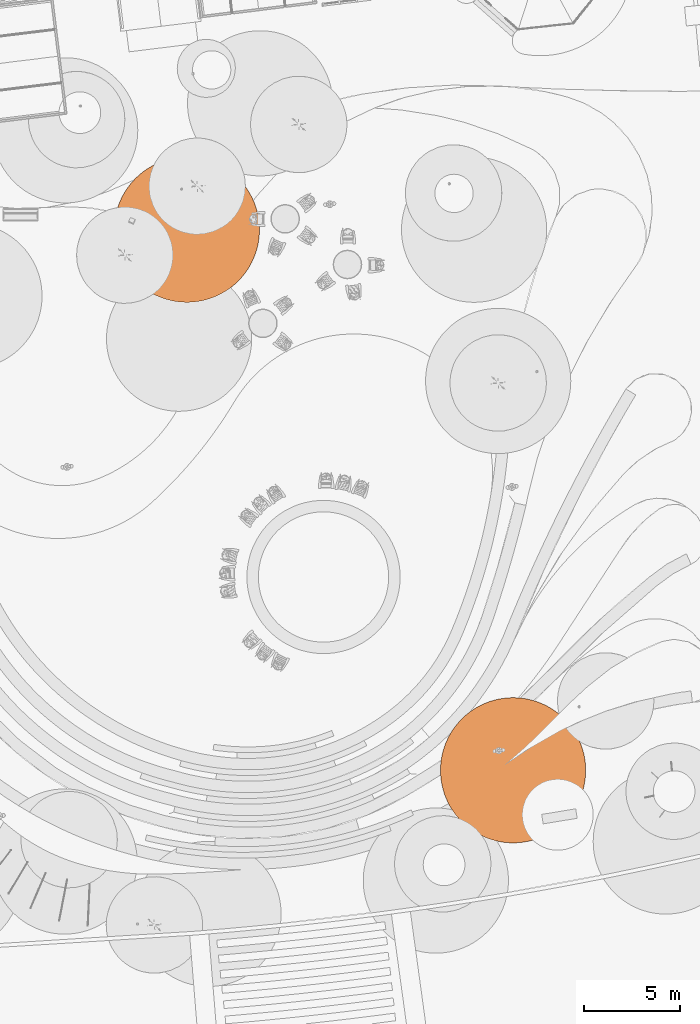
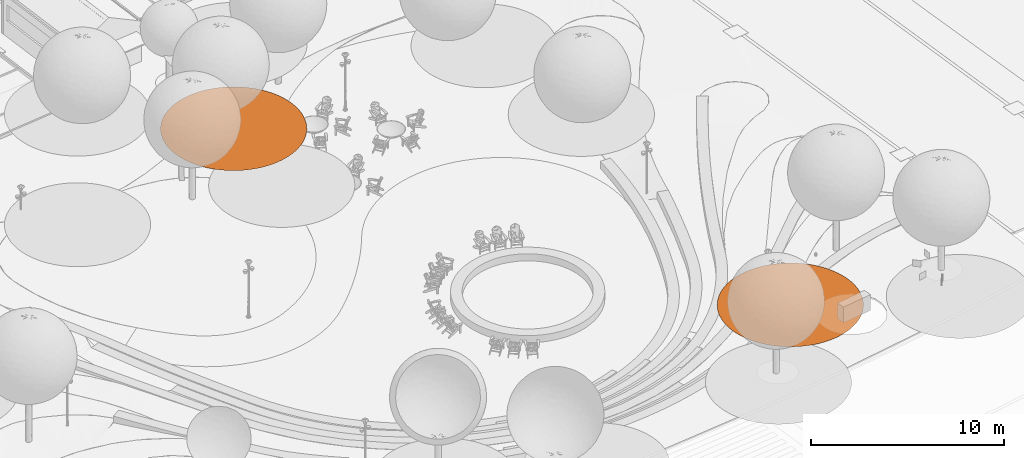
# One storey, part 71 of 75: 2 proxies.
"""IFC2X3 building model written with IfcOpenShell, lengths in metres."""

from ifc_helpers import new_model, entity, si_unit, converted_unit, derived_unit, direction, frame, origin, place, context, subcontext, project, spatial, face_set, surface_model, source, transform, mapped, material, type_object, type_shapes, element, save


model = new_model("IFC2X3")

# Units and contexts
model_context = context("Model", 3, precision=1e-05, world=origin(), true_north=direction((6.123031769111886e-17, 1.0)))
body_context = subcontext(model_context, "Body", "Model", "MODEL_VIEW")
ifc_project = project(units=[si_unit("LENGTHUNIT", "METRE"), si_unit("AREAUNIT", "SQUARE_METRE"), si_unit("VOLUMEUNIT", "CUBIC_METRE"), converted_unit("PLANEANGLEUNIT", "DEGREE", entity("IfcRatioMeasure", 0.017453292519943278), si_unit("PLANEANGLEUNIT", "RADIAN"), dimensions=[0, 0, 0, 0, 0, 0, 0]), si_unit("MASSUNIT", "GRAM", prefix="KILO"), derived_unit("MASSDENSITYUNIT", [(si_unit("MASSUNIT", "GRAM", prefix="KILO"), 1), (si_unit("LENGTHUNIT", "METRE"), -3)]), derived_unit("IONCONCENTRATIONUNIT", [(si_unit("MASSUNIT", "GRAM", prefix="KILO"), 1), (si_unit("LENGTHUNIT", "METRE"), -3)]), derived_unit("MOMENTOFINERTIAUNIT", [(si_unit("LENGTHUNIT", "METRE"), 4)]), si_unit("TIMEUNIT", "SECOND"), si_unit("FREQUENCYUNIT", "HERTZ"), si_unit("THERMODYNAMICTEMPERATUREUNIT", "DEGREE_CELSIUS"), derived_unit("THERMALTRANSMITTANCEUNIT", [(si_unit("MASSUNIT", "GRAM", prefix="KILO"), 1), (si_unit("THERMODYNAMICTEMPERATUREUNIT", "KELVIN"), -1), (si_unit("TIMEUNIT", "SECOND"), -3)]), derived_unit("THERMALCONDUCTANCEUNIT", [(si_unit("MASSUNIT", "GRAM", prefix="KILO"), 1), (si_unit("THERMODYNAMICTEMPERATUREUNIT", "KELVIN"), -1), (si_unit("TIMEUNIT", "SECOND"), -3), (si_unit("LENGTHUNIT", "METRE"), 1)]), derived_unit("VOLUMETRICFLOWRATEUNIT", [(si_unit("LENGTHUNIT", "METRE"), 3), (si_unit("TIMEUNIT", "SECOND"), -1)]), derived_unit("MASSFLOWRATEUNIT", [(si_unit("MASSUNIT", "GRAM", prefix="KILO"), 1), (si_unit("TIMEUNIT", "SECOND"), -1)]), derived_unit("ROTATIONALFREQUENCYUNIT", [(si_unit("TIMEUNIT", "SECOND"), -1)]), si_unit("ELECTRICCURRENTUNIT", "AMPERE"), si_unit("ELECTRICVOLTAGEUNIT", "VOLT"), si_unit("POWERUNIT", "WATT"), si_unit("FORCEUNIT", "NEWTON", prefix="KILO"), si_unit("ILLUMINANCEUNIT", "LUX"), si_unit("LUMINOUSFLUXUNIT", "LUMEN"), si_unit("LUMINOUSINTENSITYUNIT", "CANDELA"), derived_unit("USERDEFINED", [(si_unit("MASSUNIT", "GRAM", prefix="KILO"), -1), (si_unit("LENGTHUNIT", "METRE"), -2), (si_unit("TIMEUNIT", "SECOND"), 3), (si_unit("LUMINOUSFLUXUNIT", "LUMEN"), 1)]), derived_unit("USERDEFINED", [(si_unit("MASSUNIT", "GRAM", prefix="KILO"), 1), (si_unit("TIMEUNIT", "SECOND"), -3), (si_unit("LENGTHUNIT", "METRE"), 3), (si_unit("ELECTRICCURRENTUNIT", "AMPERE"), -2)]), derived_unit("SOUNDPOWERUNIT", [(si_unit("MASSUNIT", "GRAM", prefix="KILO"), 1), (si_unit("TIMEUNIT", "SECOND"), -3), (si_unit("LENGTHUNIT", "METRE"), 2)]), derived_unit("SOUNDPRESSUREUNIT", [(si_unit("MASSUNIT", "GRAM", prefix="KILO"), 1), (si_unit("LENGTHUNIT", "METRE"), -1), (si_unit("TIMEUNIT", "SECOND"), -2)]), derived_unit("LINEARVELOCITYUNIT", [(si_unit("LENGTHUNIT", "METRE"), 1), (si_unit("TIMEUNIT", "SECOND"), -1)]), si_unit("PRESSUREUNIT", "PASCAL"), derived_unit("USERDEFINED", [(si_unit("MASSUNIT", "GRAM", prefix="KILO"), 1), (si_unit("LENGTHUNIT", "METRE"), -2), (si_unit("TIMEUNIT", "SECOND"), -2)]), derived_unit("LINEARFORCEUNIT", [(si_unit("MASSUNIT", "GRAM", prefix="KILO"), 1), (si_unit("TIMEUNIT", "SECOND"), -2)]), derived_unit("PLANARFORCEUNIT", [(si_unit("MASSUNIT", "GRAM", prefix="KILO"), 1), (si_unit("LENGTHUNIT", "METRE"), -1), (si_unit("TIMEUNIT", "SECOND"), -2)]), derived_unit("SPECIFICHEATCAPACITYUNIT", [(si_unit("THERMODYNAMICTEMPERATUREUNIT", "KELVIN"), -1), (si_unit("LENGTHUNIT", "METRE"), 2), (si_unit("TIMEUNIT", "SECOND"), -2)]), derived_unit("HEATINGVALUEUNIT", [(si_unit("LENGTHUNIT", "METRE"), 2), (si_unit("TIMEUNIT", "SECOND"), -2)]), derived_unit("VAPORPERMEABILITYUNIT", [(si_unit("LENGTHUNIT", "METRE"), -1), (si_unit("TIMEUNIT", "SECOND"), 1)]), derived_unit("DYNAMICVISCOSITYUNIT", [(si_unit("MASSUNIT", "GRAM", prefix="KILO"), 1), (si_unit("TIMEUNIT", "SECOND"), -1), (si_unit("LENGTHUNIT", "METRE"), -1)]), derived_unit("THERMALEXPANSIONCOEFFICIENTUNIT", [(si_unit("THERMODYNAMICTEMPERATUREUNIT", "KELVIN"), -1)]), derived_unit("MODULUSOFELASTICITYUNIT", [(si_unit("MASSUNIT", "GRAM", prefix="KILO"), 1), (si_unit("LENGTHUNIT", "METRE"), -1), (si_unit("TIMEUNIT", "SECOND"), -2)]), derived_unit("ISOTHERMALMOISTURECAPACITYUNIT", [(si_unit("LENGTHUNIT", "METRE"), 3), (si_unit("MASSUNIT", "GRAM", prefix="KILO"), -1)]), derived_unit("MOISTUREDIFFUSIVITYUNIT", [(si_unit("TIMEUNIT", "SECOND"), -1), (si_unit("LENGTHUNIT", "METRE"), 2)])], contexts=[model_context])

# Site, building, storey
site_placement = place(None, origin())
site = spatial("IfcSite", under=ifc_project, at=site_placement, Name="Default", CompositionType="ELEMENT")
building_placement = place(site_placement, origin())
building = spatial("IfcBuilding", under=site, at=building_placement, Name="Projeto", CompositionType="ELEMENT")
storey_placement = place(building_placement, origin())
storey = spatial("IfcBuildingStorey", under=building, at=storey_placement, Name="Nível 1", CompositionType="ELEMENT", Elevation=0.0)

# Proxies
ifc_material = material(Name="<Unnamed>")
building_element_proxy_type = type_object("IfcBuildingElementProxyType", Name="Arvore simplificada:Arvore simplificada", PredefinedType="NOTDEFINED", material=ifc_material)
shared_shape = source(origin(), body_context, "Body", "SurfaceModel", [
    surface_model("IfcFaceBasedSurfaceModel", [(-3.9544974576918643, -0.18317979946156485, 0.0), (-3.9483138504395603, -0.3996342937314, 0.0), (-3.929783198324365, -0.6153827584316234, 0.0), (-3.8989659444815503, -0.8297214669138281, 0.0), (-3.855962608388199, -1.0419512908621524, 0.0), (-3.8009134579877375, -1.2513799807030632, 0.0), (-3.733998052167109, -1.4573244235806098, 0.0), (-3.655434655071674, -1.6591128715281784, 0.0), (-3.5654795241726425, -1.8560871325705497, 0.0), (-3.4644260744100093, -2.0476047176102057, 0.0), (-3.3526039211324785, -2.2330409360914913, 0.0), (-3.2303778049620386, -2.411790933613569, 0.0), (-3.098146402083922, -2.583271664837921, 0.0), (-2.9563410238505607, -2.7469237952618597, 0.0), (-2.8054242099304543, -2.9022135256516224, 0.0), (-2.6458882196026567, -3.048634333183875, 0.0), (-2.4782534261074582, -3.1857086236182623, 0.0), (-2.3030666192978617, -3.3129892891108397, 0.0), (-2.12089922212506, -3.430061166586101, 0.0), (-1.93234542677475, -3.5365423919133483, 0.0), (-1.7380202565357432, -3.632085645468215, 0.0), (-1.5385575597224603, -3.7163792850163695, 0.0), (-1.3346079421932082, -3.789148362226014, 0.0), (-1.1268366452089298, -3.8501555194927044, 0.0), (-0.9159213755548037, -3.8992017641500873, 0.0), (-0.7025500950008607, -3.9361271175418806, 0.0), (-0.48741877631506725, -3.9608111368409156, 0.0), (-0.2712291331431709, -3.9731733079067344, 0.0), (-0.054686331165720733, -3.9731733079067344, 0.0), (0.16150331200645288, -3.9608111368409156, 0.0), (0.3766346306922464, -3.9361271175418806, 0.0), (0.5900059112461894, -3.8992017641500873, 0.0), (0.8009211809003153, -3.8501555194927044, 0.0), (1.0086924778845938, -3.789148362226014, 0.0), (1.212642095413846, -3.7163792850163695, 0.0), (1.4121047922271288, -3.632085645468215, 0.0), (1.6064299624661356, -3.5365423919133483, 0.0), (1.7949837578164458, -3.430061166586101, 0.0), (1.9771511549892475, -3.3129892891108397, 0.0), (2.152337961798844, -3.1857086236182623, 0.0), (2.3199727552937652, -3.048634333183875, 0.0), (2.479508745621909, -2.9022135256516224, 0.0), (2.6304255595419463, -2.7469237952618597, 0.0), (2.7722309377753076, -2.583271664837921, 0.0), (2.9044623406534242, -2.411790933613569, 0.0), (3.026688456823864, -2.2330409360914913, 0.0), (3.138510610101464, -2.0476047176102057, 0.0), (3.239564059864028, -1.8560871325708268, 0.0), (3.3295191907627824, -1.6591128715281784, 0.0), (3.4080825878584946, -1.4573244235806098, 0.0), (3.474997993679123, -1.2513799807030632, 0.0), (3.5300471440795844, -1.0419512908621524, 0.0), (3.573050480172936, -0.8297214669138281, 0.0), (3.6038677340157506, -0.6153827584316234, 0.0), (3.622398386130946, -0.3996342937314, 0.0), (3.62858199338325, -0.18317979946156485, 0.0), (3.622398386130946, 0.03327469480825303, 0.0), (3.6038677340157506, 0.24902315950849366, 0.0), (3.573050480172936, 0.4633618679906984, 0.0), (3.5300471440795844, 0.6755916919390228, 0.0), (3.474997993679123, 0.8850203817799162, 0.0), (3.4080825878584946, 1.0909648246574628, 0.0), (3.3295191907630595, 1.2927532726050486, 0.0), (3.239564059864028, 1.4897275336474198, 0.0), (3.138510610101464, 1.6812451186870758, 0.0), (3.026688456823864, 1.8666813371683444, 0.0), (2.9044623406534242, 2.0454313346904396, 0.0), (2.7722309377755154, 2.2169120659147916, 0.0), (2.6304255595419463, 2.38056419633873, 0.0), (2.479508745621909, 2.535853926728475, 0.0), (2.3199727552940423, 2.682274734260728, 0.0), (2.152337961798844, 2.819349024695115, 0.0), (1.9771511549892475, 2.946629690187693, 0.0), (1.7949837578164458, 3.063701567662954, 0.0), (1.6064299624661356, 3.1701827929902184, 0.0), (1.4121047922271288, 3.265726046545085, 0.0), (1.212642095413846, 3.3500196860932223, 0.0), (1.0086924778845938, 3.422788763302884, 0.0), (0.8009211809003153, 3.4837959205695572, 0.0), (0.5900059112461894, 3.5328421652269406, 0.0), (0.3766346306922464, 3.5697675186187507, 0.0), (0.16150331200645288, 3.5944515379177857, 0.0), (-0.05468633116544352, 3.606813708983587, 0.0), (-0.27122913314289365, 3.606813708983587, 0.0), (-0.48741877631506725, 3.5944515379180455, 0.0), (-0.7025500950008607, 3.5697675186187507, 0.0), (-0.9159213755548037, 3.5328421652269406, 0.0), (-1.1268366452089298, 3.4837959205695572, 0.0), (-1.3346079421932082, 3.422788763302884, 0.0), (-1.5385575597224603, 3.3500196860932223, 0.0), (-1.7380202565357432, 3.265726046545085, 0.0), (-1.93234542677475, 3.1701827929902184, 0.0), (-2.12089922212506, 3.063701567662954, 0.0), (-2.3030666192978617, 2.946629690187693, 0.0), (-2.4782534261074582, 2.819349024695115, 0.0), (-2.6458882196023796, 2.682274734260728, 0.0), (-2.8054242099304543, 2.535853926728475, 0.0), (-2.9563410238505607, 2.38056419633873, 0.0), (-3.098146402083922, 2.2169120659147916, 0.0), (-3.2303778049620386, 2.0454313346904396, 0.0), (-3.3526039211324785, 1.8666813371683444, 0.0), (-3.4644260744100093, 1.6812451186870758, 0.0), (-3.5654795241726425, 1.4897275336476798, 0.0), (-3.6554346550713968, 1.2927532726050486, 0.0), (-3.733998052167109, 1.0909648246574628, 0.0), (-3.8009134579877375, 0.8850203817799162, 0.0), (-3.855962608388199, 0.6755916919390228, 0.0), (-3.8989659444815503, 0.4633618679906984, 0.0), (-3.929783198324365, 0.24902315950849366, 0.0), (-3.9483138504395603, 0.03327469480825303, 0.0)], [face_set([[[0, 1, 2, 3, 4, 5, 6, 7, 8, 9, 10, 11, 12, 13, 14, 15, 16, 17, 18, 19, 20, 21, 22, 23, 24, 25, 26, 27, 28, 29, 30, 31, 32, 33, 34, 35, 36, 37, 38, 39, 40, 41, 42, 43, 44, 45, 46, 47, 48, 49, 50, 51, 52, 53, 54, 55, 56, 57, 58, 59, 60, 61, 62, 63, 64, 65, 66, 67, 68, 69, 70, 71, 72, 73, 74, 75, 76, 77, 78, 79, 80, 81, 82, 83, 84, 85, 86, 87, 88, 89, 90, 91, 92, 93, 94, 95, 96, 97, 98, 99, 100, 101, 102, 103, 104, 105, 106, 107, 108, 109]]])]),
])
type_shapes(building_element_proxy_type, [shared_shape])
for number, where, z_axis, x_axis in (
    (1, (18.72897929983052, -10.407378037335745, 0.0), (0.0, 0.0, 1.0), (0.9422539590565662, 0.3348992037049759, 0.0)),
    (2, (1.6921041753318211, 17.825500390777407, 0.0), (0.0, 0.0, 1.0), (0.9422539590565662, 0.3348992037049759, 0.0)),
):
    element("IfcBuildingElementProxy", number, at=place(storey_placement, frame(where, z_axis=z_axis, x_axis=x_axis)), inside=storey, type_object=building_element_proxy_type, material=ifc_material, Name="Arvore simplificada:Arvore simplificada", ObjectType="Arvore simplificada:Arvore simplificada", context=body_context, shape_type="MappedRepresentation", body=[
        mapped(shared_shape, transform((0.0, 0.0, 0.0), scale=1.0)),
    ])

save(model, "model.ifc")
